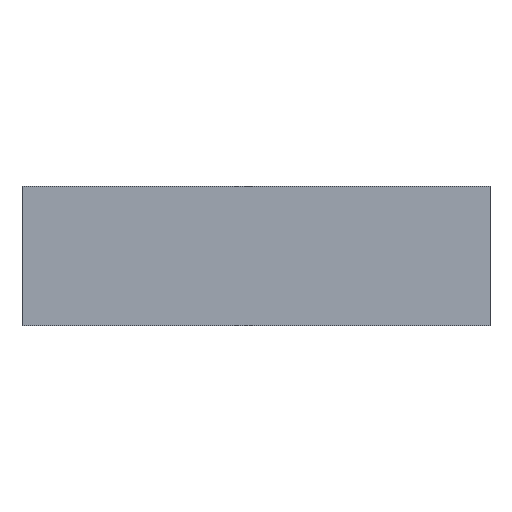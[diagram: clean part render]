
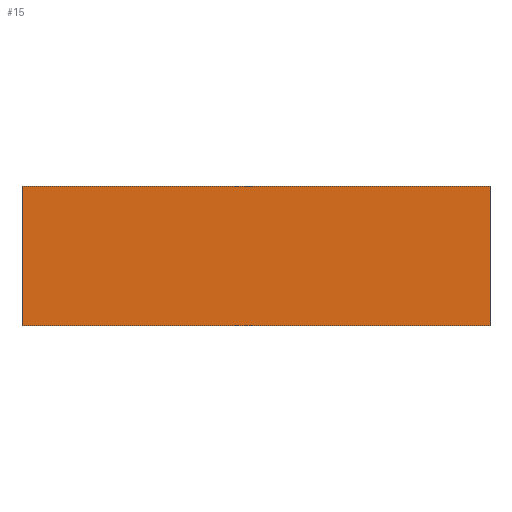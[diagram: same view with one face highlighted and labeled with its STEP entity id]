
A CAD part, front view. The second image highlights one B-rep face of the part: STEP entity #15.
In plain terms, the highlighted planar face has unit normal (0, -1, 0).
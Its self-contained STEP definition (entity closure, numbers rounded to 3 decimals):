
#15 = ADVANCED_FACE ( 'NONE', ( #727 ), #497, .F. ) ;
#26 = EDGE_CURVE ( 'NONE', #409, #412, #580, .T. ) ;
#62 = AXIS2_PLACEMENT_3D ( 'NONE', #496, #473, #513 ) ;
#64 = EDGE_CURVE ( 'NONE', #406, #412, #278, .T. ) ;
#84 = EDGE_CURVE ( 'NONE', #414, #409, #236, .T. ) ;
#96 = EDGE_CURVE ( 'NONE', #414, #406, #302, .T. ) ;
#151 = CARTESIAN_POINT ( 'NONE',  ( -201., 0., 0. ) ) ;
#153 = CARTESIAN_POINT ( 'NONE',  ( -201., 0., 120. ) ) ;
#156 = CARTESIAN_POINT ( 'NONE',  ( 201., 0., 120. ) ) ;
#160 = CARTESIAN_POINT ( 'NONE',  ( 201., 0., 0. ) ) ;
#236 = LINE ( 'NONE', #428, #287 ) ;
#260 = VECTOR ( 'NONE', #456, 1000. ) ;
#277 = VECTOR ( 'NONE', #324, 1000. ) ;
#278 = LINE ( 'NONE', #333, #277 ) ;
#287 = VECTOR ( 'NONE', #431, 1000. ) ;
#302 = LINE ( 'NONE', #455, #260 ) ;
#324 = DIRECTION ( 'NONE',  ( 1., 0., 0. ) ) ;
#333 = CARTESIAN_POINT ( 'NONE',  ( -201., 0., 0. ) ) ;
#363 = CARTESIAN_POINT ( 'NONE',  ( 201., 0., 120. ) ) ;
#364 = DIRECTION ( 'NONE',  ( 0., 0., -1. ) ) ;
#406 = VERTEX_POINT ( 'NONE', #151 ) ;
#409 = VERTEX_POINT ( 'NONE', #156 ) ;
#412 = VERTEX_POINT ( 'NONE', #160 ) ;
#414 = VERTEX_POINT ( 'NONE', #153 ) ;
#428 = CARTESIAN_POINT ( 'NONE',  ( -201., 0., 120. ) ) ;
#431 = DIRECTION ( 'NONE',  ( 1., 0., 0. ) ) ;
#455 = CARTESIAN_POINT ( 'NONE',  ( -201., 0., 120. ) ) ;
#456 = DIRECTION ( 'NONE',  ( 0., 0., -1. ) ) ;
#473 = DIRECTION ( 'NONE',  ( 0., 1., 0. ) ) ;
#496 = CARTESIAN_POINT ( 'NONE',  ( -201., 0., 120. ) ) ;
#497 = PLANE ( 'NONE',  #62 ) ;
#513 = DIRECTION ( 'NONE',  ( -1., 0., 0. ) ) ;
#562 = EDGE_LOOP ( 'NONE', ( #733, #699, #585, #707 ) ) ;
#578 = VECTOR ( 'NONE', #364, 1000. ) ;
#580 = LINE ( 'NONE', #363, #578 ) ;
#585 = ORIENTED_EDGE ( 'NONE', *, *, #84, .F. ) ;
#699 = ORIENTED_EDGE ( 'NONE', *, *, #26, .F. ) ;
#707 = ORIENTED_EDGE ( 'NONE', *, *, #96, .T. ) ;
#727 = FACE_OUTER_BOUND ( 'NONE', #562, .T. ) ;
#733 = ORIENTED_EDGE ( 'NONE', *, *, #64, .T. ) ;
